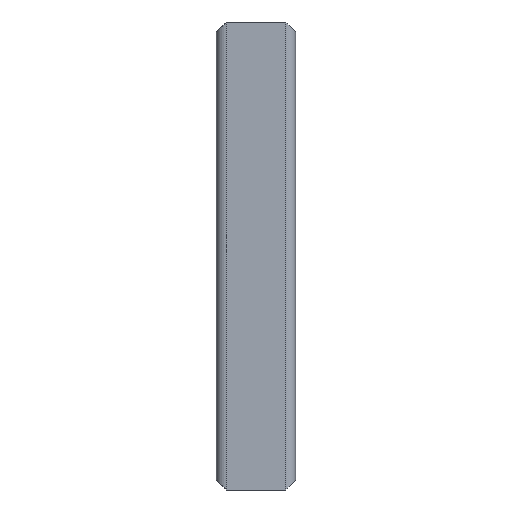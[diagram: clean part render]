
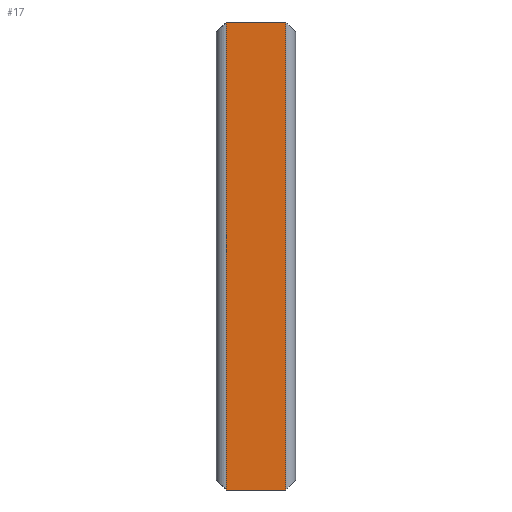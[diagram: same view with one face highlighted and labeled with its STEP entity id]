
A CAD part, front view. The second image highlights one B-rep face of the part: STEP entity #17.
In plain terms, the highlighted planar face has unit normal (0, -1, 0).
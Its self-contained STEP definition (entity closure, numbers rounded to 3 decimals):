
#17 = ADVANCED_FACE('',(#18),#32,.F.);
#18 = FACE_BOUND('',#19,.F.);
#19 = EDGE_LOOP('',(#20,#55,#82,#110));
#20 = ORIENTED_EDGE('',*,*,#21,.T.);
#21 = EDGE_CURVE('',#22,#24,#26,.T.);
#22 = VERTEX_POINT('',#23);
#23 = CARTESIAN_POINT('',(-56.25,-75.,-18.75));
#24 = VERTEX_POINT('',#25);
#25 = CARTESIAN_POINT('',(-56.25,-75.,868.75));
#26 = SURFACE_CURVE('',#27,(#31,#43),.PCURVE_S1.);
#27 = LINE('',#28,#29);
#28 = CARTESIAN_POINT('',(-56.25,-75.,-18.75));
#29 = VECTOR('',#30,1.);
#30 = DIRECTION('',(0.,0.,1.));
#31 = PCURVE('',#32,#37);
#32 = PLANE('',#33);
#33 = AXIS2_PLACEMENT_3D('',#34,#35,#36);
#34 = CARTESIAN_POINT('',(-56.25,-75.,-18.75));
#35 = DIRECTION('',(0.,1.,0.));
#36 = DIRECTION('',(1.,0.,0.));
#37 = DEFINITIONAL_REPRESENTATION('',(#38),#42);
#38 = LINE('',#39,#40);
#39 = CARTESIAN_POINT('',(0.,0.));
#40 = VECTOR('',#41,1.);
#41 = DIRECTION('',(0.,-1.));
#42 = ( GEOMETRIC_REPRESENTATION_CONTEXT(2) 
PARAMETRIC_REPRESENTATION_CONTEXT() REPRESENTATION_CONTEXT('2D SPACE',''
  ) );
#43 = PCURVE('',#44,#49);
#44 = CYLINDRICAL_SURFACE('',#45,18.75);
#45 = AXIS2_PLACEMENT_3D('',#46,#47,#48);
#46 = CARTESIAN_POINT('',(-56.25,-56.25,-18.75));
#47 = DIRECTION('',(-0.,-0.,-1.));
#48 = DIRECTION('',(1.,0.,-0.));
#49 = DEFINITIONAL_REPRESENTATION('',(#50),#54);
#50 = LINE('',#51,#52);
#51 = CARTESIAN_POINT('',(-4.712,0.));
#52 = VECTOR('',#53,1.);
#53 = DIRECTION('',(-0.,-1.));
#54 = ( GEOMETRIC_REPRESENTATION_CONTEXT(2) 
PARAMETRIC_REPRESENTATION_CONTEXT() REPRESENTATION_CONTEXT('2D SPACE',''
  ) );
#55 = ORIENTED_EDGE('',*,*,#56,.T.);
#56 = EDGE_CURVE('',#24,#57,#59,.T.);
#57 = VERTEX_POINT('',#58);
#58 = CARTESIAN_POINT('',(56.25,-75.,868.75));
#59 = SURFACE_CURVE('',#60,(#64,#71),.PCURVE_S1.);
#60 = LINE('',#61,#62);
#61 = CARTESIAN_POINT('',(-56.25,-75.,868.75));
#62 = VECTOR('',#63,1.);
#63 = DIRECTION('',(1.,0.,0.));
#64 = PCURVE('',#32,#65);
#65 = DEFINITIONAL_REPRESENTATION('',(#66),#70);
#66 = LINE('',#67,#68);
#67 = CARTESIAN_POINT('',(0.,-887.5));
#68 = VECTOR('',#69,1.);
#69 = DIRECTION('',(1.,0.));
#70 = ( GEOMETRIC_REPRESENTATION_CONTEXT(2) 
PARAMETRIC_REPRESENTATION_CONTEXT() REPRESENTATION_CONTEXT('2D SPACE',''
  ) );
#71 = PCURVE('',#72,#77);
#72 = CYLINDRICAL_SURFACE('',#73,18.75);
#73 = AXIS2_PLACEMENT_3D('',#74,#75,#76);
#74 = CARTESIAN_POINT('',(500.,-56.25,868.75));
#75 = DIRECTION('',(1.,-0.,-0.));
#76 = DIRECTION('',(0.,0.,1.));
#77 = DEFINITIONAL_REPRESENTATION('',(#78),#81);
#78 = B_SPLINE_CURVE_WITH_KNOTS('',1,(#79,#80),.UNSPECIFIED.,.F.,.F.,(2,
    2),(0.,112.5),.PIECEWISE_BEZIER_KNOTS.);
#79 = CARTESIAN_POINT('',(-4.712,-556.25));
#80 = CARTESIAN_POINT('',(-4.712,-443.75));
#81 = ( GEOMETRIC_REPRESENTATION_CONTEXT(2) 
PARAMETRIC_REPRESENTATION_CONTEXT() REPRESENTATION_CONTEXT('2D SPACE',''
  ) );
#82 = ORIENTED_EDGE('',*,*,#83,.F.);
#83 = EDGE_CURVE('',#84,#57,#86,.T.);
#84 = VERTEX_POINT('',#85);
#85 = CARTESIAN_POINT('',(56.25,-75.,-18.75));
#86 = SURFACE_CURVE('',#87,(#91,#98),.PCURVE_S1.);
#87 = LINE('',#88,#89);
#88 = CARTESIAN_POINT('',(56.25,-75.,-18.75));
#89 = VECTOR('',#90,1.);
#90 = DIRECTION('',(0.,0.,1.));
#91 = PCURVE('',#32,#92);
#92 = DEFINITIONAL_REPRESENTATION('',(#93),#97);
#93 = LINE('',#94,#95);
#94 = CARTESIAN_POINT('',(112.5,0.));
#95 = VECTOR('',#96,1.);
#96 = DIRECTION('',(0.,-1.));
#97 = ( GEOMETRIC_REPRESENTATION_CONTEXT(2) 
PARAMETRIC_REPRESENTATION_CONTEXT() REPRESENTATION_CONTEXT('2D SPACE',''
  ) );
#98 = PCURVE('',#99,#104);
#99 = CYLINDRICAL_SURFACE('',#100,18.75);
#100 = AXIS2_PLACEMENT_3D('',#101,#102,#103);
#101 = CARTESIAN_POINT('',(56.25,-56.25,-18.75));
#102 = DIRECTION('',(-0.,-0.,-1.));
#103 = DIRECTION('',(1.,0.,-0.));
#104 = DEFINITIONAL_REPRESENTATION('',(#105),#109);
#105 = LINE('',#106,#107);
#106 = CARTESIAN_POINT('',(-4.712,0.));
#107 = VECTOR('',#108,1.);
#108 = DIRECTION('',(-0.,-1.));
#109 = ( GEOMETRIC_REPRESENTATION_CONTEXT(2) 
PARAMETRIC_REPRESENTATION_CONTEXT() REPRESENTATION_CONTEXT('2D SPACE',''
  ) );
#110 = ORIENTED_EDGE('',*,*,#111,.F.);
#111 = EDGE_CURVE('',#22,#84,#112,.T.);
#112 = SURFACE_CURVE('',#113,(#117,#124),.PCURVE_S1.);
#113 = LINE('',#114,#115);
#114 = CARTESIAN_POINT('',(-56.25,-75.,-18.75));
#115 = VECTOR('',#116,1.);
#116 = DIRECTION('',(1.,0.,0.));
#117 = PCURVE('',#32,#118);
#118 = DEFINITIONAL_REPRESENTATION('',(#119),#123);
#119 = LINE('',#120,#121);
#120 = CARTESIAN_POINT('',(0.,0.));
#121 = VECTOR('',#122,1.);
#122 = DIRECTION('',(1.,0.));
#123 = ( GEOMETRIC_REPRESENTATION_CONTEXT(2) 
PARAMETRIC_REPRESENTATION_CONTEXT() REPRESENTATION_CONTEXT('2D SPACE',''
  ) );
#124 = PCURVE('',#125,#130);
#125 = CYLINDRICAL_SURFACE('',#126,18.75);
#126 = AXIS2_PLACEMENT_3D('',#127,#128,#129);
#127 = CARTESIAN_POINT('',(500.,-56.25,-18.75));
#128 = DIRECTION('',(1.,-0.,-0.));
#129 = DIRECTION('',(0.,0.,1.));
#130 = DEFINITIONAL_REPRESENTATION('',(#131),#134);
#131 = B_SPLINE_CURVE_WITH_KNOTS('',1,(#132,#133),.UNSPECIFIED.,.F.,.F.,
  (2,2),(0.,112.5),.PIECEWISE_BEZIER_KNOTS.);
#132 = CARTESIAN_POINT('',(-4.712,-556.25));
#133 = CARTESIAN_POINT('',(-4.712,-443.75));
#134 = ( GEOMETRIC_REPRESENTATION_CONTEXT(2) 
PARAMETRIC_REPRESENTATION_CONTEXT() REPRESENTATION_CONTEXT('2D SPACE',''
  ) );
